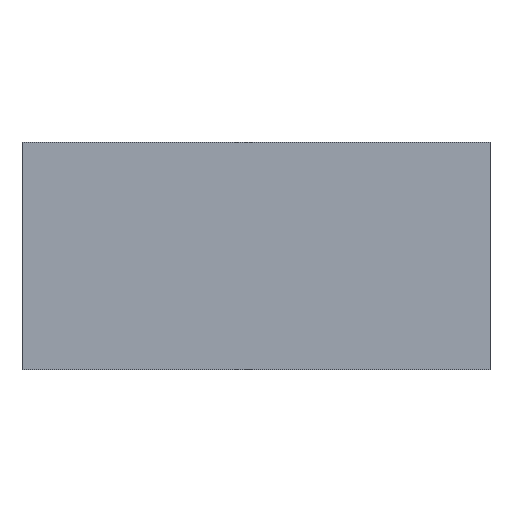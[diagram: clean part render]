
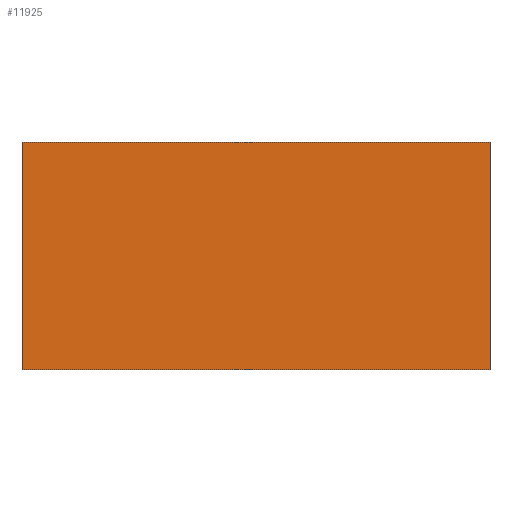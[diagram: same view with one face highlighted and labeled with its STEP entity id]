
A CAD part, front view. The second image highlights one B-rep face of the part: STEP entity #11925.
In plain terms, the highlighted planar face has unit normal (0, -1, 0).
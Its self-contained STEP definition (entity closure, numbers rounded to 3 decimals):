
#510 = CARTESIAN_POINT ( 'NONE',  ( 24.9, 0., -12.1 ) ) ;
#1183 = EDGE_CURVE ( 'NONE', #20562, #2466, #12589, .T. ) ;
#1409 = LINE ( 'NONE', #4965, #3688 ) ;
#2466 = VERTEX_POINT ( 'NONE', #22071 ) ;
#2951 = DIRECTION ( 'NONE',  ( 0., 0., -1. ) ) ;
#3490 = DIRECTION ( 'NONE',  ( -1., 0., 0. ) ) ;
#3688 = VECTOR ( 'NONE', #21902, 1000. ) ;
#3823 = VECTOR ( 'NONE', #3490, 1000. ) ;
#4292 = EDGE_CURVE ( 'NONE', #16362, #6031, #9395, .T. ) ;
#4965 = CARTESIAN_POINT ( 'NONE',  ( 24.9, 0., 12.1 ) ) ;
#5948 = CARTESIAN_POINT ( 'NONE',  ( 24.9, 0., -12.1 ) ) ;
#6031 = VERTEX_POINT ( 'NONE', #13082 ) ;
#7346 = CARTESIAN_POINT ( 'NONE',  ( 24.9, 0., -12.1 ) ) ;
#8278 = EDGE_CURVE ( 'NONE', #6031, #2466, #1409, .T. ) ;
#9395 = LINE ( 'NONE', #20324, #15814 ) ;
#9778 = CARTESIAN_POINT ( 'NONE',  ( -24.9, 0., -12.1 ) ) ;
#9982 = DIRECTION ( 'NONE',  ( 0., 0., 1. ) ) ;
#10380 = AXIS2_PLACEMENT_3D ( 'NONE', #510, #17451, #2951 ) ;
#11925 = ADVANCED_FACE ( 'NONE', ( #29721 ), #22204, .T. ) ;
#12589 = LINE ( 'NONE', #9778, #31092 ) ;
#12706 = ORIENTED_EDGE ( 'NONE', *, *, #8278, .T. ) ;
#13082 = CARTESIAN_POINT ( 'NONE',  ( 24.9, 0., 12.1 ) ) ;
#13860 = CARTESIAN_POINT ( 'NONE',  ( -24.9, 0., -12.1 ) ) ;
#15814 = VECTOR ( 'NONE', #20970, 1000. ) ;
#16362 = VERTEX_POINT ( 'NONE', #7346 ) ;
#16429 = EDGE_LOOP ( 'NONE', ( #26711, #28950, #30457, #12706 ) ) ;
#16636 = EDGE_CURVE ( 'NONE', #16362, #20562, #28849, .T. ) ;
#17451 = DIRECTION ( 'NONE',  ( 0., -1., 0. ) ) ;
#20324 = CARTESIAN_POINT ( 'NONE',  ( 24.9, 0., -12.1 ) ) ;
#20562 = VERTEX_POINT ( 'NONE', #13860 ) ;
#20970 = DIRECTION ( 'NONE',  ( 0., 0., 1. ) ) ;
#21902 = DIRECTION ( 'NONE',  ( -1., 0., 0. ) ) ;
#22071 = CARTESIAN_POINT ( 'NONE',  ( -24.9, 0., 12.1 ) ) ;
#22204 = PLANE ( 'NONE',  #10380 ) ;
#26711 = ORIENTED_EDGE ( 'NONE', *, *, #1183, .F. ) ;
#28849 = LINE ( 'NONE', #5948, #3823 ) ;
#28950 = ORIENTED_EDGE ( 'NONE', *, *, #16636, .F. ) ;
#29721 = FACE_OUTER_BOUND ( 'NONE', #16429, .T. ) ;
#30457 = ORIENTED_EDGE ( 'NONE', *, *, #4292, .T. ) ;
#31092 = VECTOR ( 'NONE', #9982, 1000. ) ;
